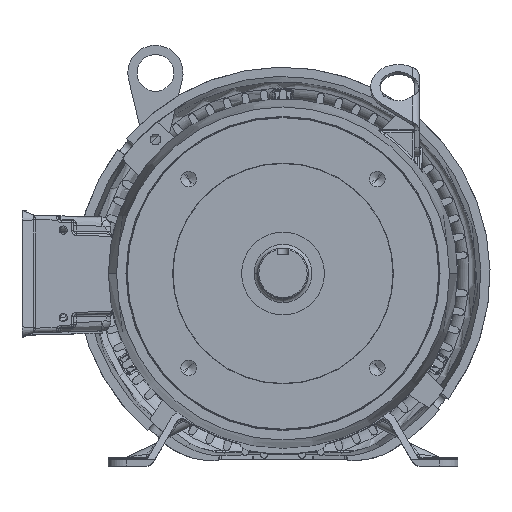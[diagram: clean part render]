
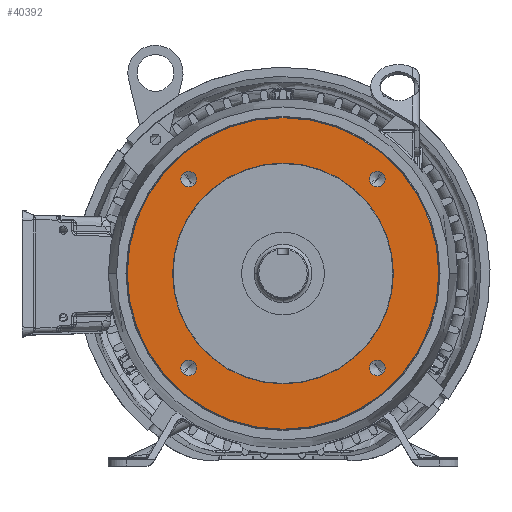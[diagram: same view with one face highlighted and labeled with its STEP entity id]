
A CAD part, top view. The second image highlights one B-rep face of the part: STEP entity #40392.
In plain terms, the highlighted planar face has unit normal (0, 0, 1) as drawn and (0, 0, -1) by its records, which use the part's own axes.
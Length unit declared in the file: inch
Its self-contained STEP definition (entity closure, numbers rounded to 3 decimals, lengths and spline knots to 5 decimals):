
#35030=CARTESIAN_POINT('',(0.,0.,-2.936));
#35031=DIRECTION('',(0.,0.,-1.));
#35032=DIRECTION('',(1.,0.,0.));
#35033=AXIS2_PLACEMENT_3D('',#35030,#35031,#35032);
#35043=CARTESIAN_POINT('',(0.,0.,-2.936));
#35044=DIRECTION('',(0.,0.,1.));
#35045=DIRECTION('',(1.,0.,0.));
#35046=AXIS2_PLACEMENT_3D('',#35043,#35044,#35045);
#35048=CARTESIAN_POINT('',(0.,0.,-2.936));
#35049=DIRECTION('',(0.,0.,1.));
#35050=DIRECTION('',(1.,0.,0.));
#35051=AXIS2_PLACEMENT_3D('',#35048,#35049,#35050);
#35053=CARTESIAN_POINT('',(0.,0.,-2.936));
#35054=DIRECTION('',(0.,0.,1.));
#35055=DIRECTION('',(-1.,0.,0.));
#35056=AXIS2_PLACEMENT_3D('',#35053,#35054,#35055);
#35058=CARTESIAN_POINT('',(-2.56326,2.56326,-2.936));
#35059=DIRECTION('',(0.,0.,1.));
#35060=DIRECTION('',(-0.707,0.707,0.));
#35061=AXIS2_PLACEMENT_3D('',#35058,#35059,#35060);
#35063=CARTESIAN_POINT('',(-2.56326,2.56326,-2.936));
#35064=DIRECTION('',(0.,0.,1.));
#35065=DIRECTION('',(0.707,-0.707,0.));
#35066=AXIS2_PLACEMENT_3D('',#35063,#35064,#35065);
#35068=CARTESIAN_POINT('',(-2.56326,-2.56326,-2.936));
#35069=DIRECTION('',(0.,0.,1.));
#35070=DIRECTION('',(-0.707,-0.707,0.));
#35071=AXIS2_PLACEMENT_3D('',#35068,#35069,#35070);
#35073=CARTESIAN_POINT('',(-2.56326,-2.56326,-2.936));
#35074=DIRECTION('',(0.,0.,1.));
#35075=DIRECTION('',(0.707,0.707,0.));
#35076=AXIS2_PLACEMENT_3D('',#35073,#35074,#35075);
#35078=CARTESIAN_POINT('',(2.56326,-2.56326,-2.936));
#35079=DIRECTION('',(0.,0.,1.));
#35080=DIRECTION('',(0.707,-0.707,0.));
#35081=AXIS2_PLACEMENT_3D('',#35078,#35079,#35080);
#35083=CARTESIAN_POINT('',(2.56326,-2.56326,-2.936));
#35084=DIRECTION('',(0.,0.,1.));
#35085=DIRECTION('',(-0.707,0.707,0.));
#35086=AXIS2_PLACEMENT_3D('',#35083,#35084,#35085);
#35088=CARTESIAN_POINT('',(2.56326,2.56326,-2.936));
#35089=DIRECTION('',(0.,0.,1.));
#35090=DIRECTION('',(0.707,0.707,0.));
#35091=AXIS2_PLACEMENT_3D('',#35088,#35089,#35090);
#35093=CARTESIAN_POINT('',(2.56326,2.56326,-2.936));
#35094=DIRECTION('',(0.,0.,1.));
#35095=DIRECTION('',(-0.707,-0.707,0.));
#35096=AXIS2_PLACEMENT_3D('',#35093,#35094,#35095);
#39774=CARTESIAN_POINT('',(4.2321,0.,-2.936));
#39776=VERTEX_POINT('',#39774);
#39784=CARTESIAN_POINT('',(-4.2321,0.,-2.936));
#39786=VERTEX_POINT('',#39784);
#39794=CARTESIAN_POINT('',(2.99832,0.,-2.936));
#39795=CARTESIAN_POINT('',(-2.99832,0.,-2.936));
#39796=VERTEX_POINT('',#39794);
#39797=VERTEX_POINT('',#39795);
#39928=CARTESIAN_POINT('',(-2.71246,2.71246,-2.936));
#39929=CARTESIAN_POINT('',(-2.41406,2.41406,-2.936));
#39930=VERTEX_POINT('',#39928);
#39931=VERTEX_POINT('',#39929);
#39938=CARTESIAN_POINT('',(-2.71246,-2.71246,-2.936));
#39939=CARTESIAN_POINT('',(-2.41406,-2.41406,-2.936));
#39940=VERTEX_POINT('',#39938);
#39941=VERTEX_POINT('',#39939);
#39948=CARTESIAN_POINT('',(2.71246,-2.71246,-2.936));
#39949=CARTESIAN_POINT('',(2.41406,-2.41406,-2.936));
#39950=VERTEX_POINT('',#39948);
#39951=VERTEX_POINT('',#39949);
#39958=CARTESIAN_POINT('',(2.71246,2.71246,-2.936));
#39959=CARTESIAN_POINT('',(2.41406,2.41406,-2.936));
#39960=VERTEX_POINT('',#39958);
#39961=VERTEX_POINT('',#39959);
#40353=CARTESIAN_POINT('',(0.,0.,-2.936));
#40354=DIRECTION('',(0.,0.,-1.));
#40355=DIRECTION('',(1.,0.,0.));
#40356=AXIS2_PLACEMENT_3D('',#40353,#40354,#40355);
#40357=PLANE('',#40356);
#40358=ORIENTED_EDGE('',*,*,#40348,.T.);
#40359=ORIENTED_EDGE('',*,*,#40332,.F.);
#40360=EDGE_LOOP('',(#40358,#40359));
#40361=FACE_OUTER_BOUND('',#40360,.F.);
#40363=ORIENTED_EDGE('',*,*,#40362,.F.);
#40365=ORIENTED_EDGE('',*,*,#40364,.F.);
#40366=EDGE_LOOP('',(#40363,#40365));
#40367=FACE_BOUND('',#40366,.F.);
#40369=ORIENTED_EDGE('',*,*,#40368,.F.);
#40371=ORIENTED_EDGE('',*,*,#40370,.F.);
#40372=EDGE_LOOP('',(#40369,#40371));
#40373=FACE_BOUND('',#40372,.F.);
#40375=ORIENTED_EDGE('',*,*,#40374,.F.);
#40377=ORIENTED_EDGE('',*,*,#40376,.F.);
#40378=EDGE_LOOP('',(#40375,#40377));
#40379=FACE_BOUND('',#40378,.F.);
#40381=ORIENTED_EDGE('',*,*,#40380,.F.);
#40383=ORIENTED_EDGE('',*,*,#40382,.F.);
#40384=EDGE_LOOP('',(#40381,#40383));
#40385=FACE_BOUND('',#40384,.F.);
#40387=ORIENTED_EDGE('',*,*,#40386,.F.);
#40389=ORIENTED_EDGE('',*,*,#40388,.F.);
#40390=EDGE_LOOP('',(#40387,#40389));
#40391=FACE_BOUND('',#40390,.F.);
#40392=ADVANCED_FACE('',(#40361,#40367,#40373,#40379,#40385,#40391),#40357,.T.);
#35034=CIRCLE('',#35033,4.2321);
#35047=CIRCLE('',#35046,4.2321);
#35052=CIRCLE('',#35051,2.99832);
#35057=CIRCLE('',#35056,2.99832);
#35062=CIRCLE('',#35061,0.211);
#35067=CIRCLE('',#35066,0.211);
#35072=CIRCLE('',#35071,0.211);
#35077=CIRCLE('',#35076,0.211);
#35082=CIRCLE('',#35081,0.211);
#35087=CIRCLE('',#35086,0.211);
#35092=CIRCLE('',#35091,0.211);
#35097=CIRCLE('',#35096,0.211);
#40332=EDGE_CURVE('',#39776,#39786,#35034,.T.);
#40348=EDGE_CURVE('',#39776,#39786,#35047,.T.);
#40362=EDGE_CURVE('',#39796,#39797,#35052,.T.);
#40364=EDGE_CURVE('',#39797,#39796,#35057,.T.);
#40368=EDGE_CURVE('',#39930,#39931,#35062,.T.);
#40370=EDGE_CURVE('',#39931,#39930,#35067,.T.);
#40374=EDGE_CURVE('',#39940,#39941,#35072,.T.);
#40376=EDGE_CURVE('',#39941,#39940,#35077,.T.);
#40380=EDGE_CURVE('',#39950,#39951,#35082,.T.);
#40382=EDGE_CURVE('',#39951,#39950,#35087,.T.);
#40386=EDGE_CURVE('',#39960,#39961,#35092,.T.);
#40388=EDGE_CURVE('',#39961,#39960,#35097,.T.);
